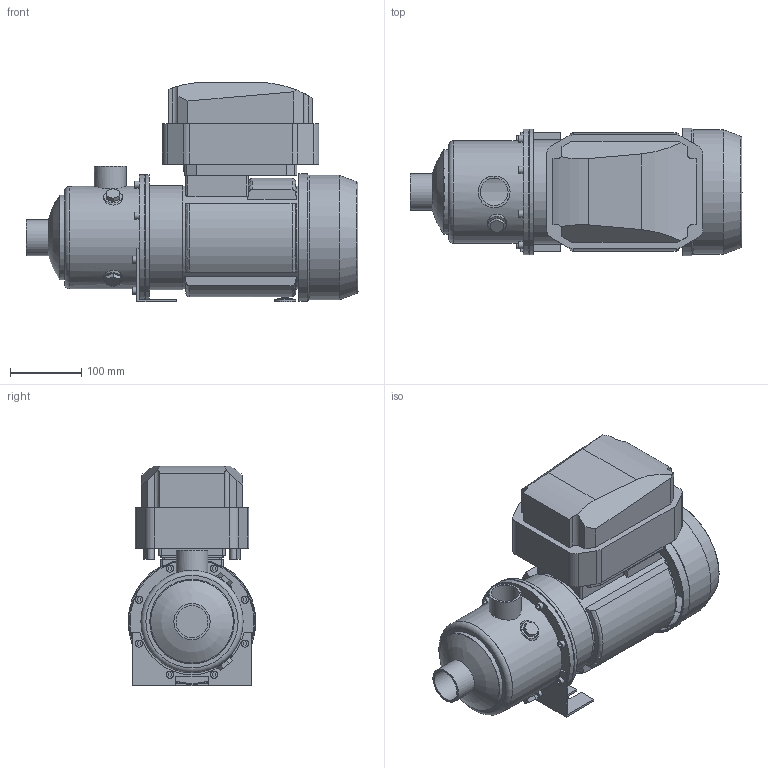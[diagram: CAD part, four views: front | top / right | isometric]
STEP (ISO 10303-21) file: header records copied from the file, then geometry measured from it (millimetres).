
FILE_DESCRIPTION(/* description */ ('Unknown'),/* implementation_level */ '2;1');
FILE_NAME(/* name */ 'MH 9 [3] T6 IE3 DTm',/* time_stamp */ '2026-07-10T15:16:49+02:00',/* author */ ('Unknown'),/* organization */ ('Unknown'),/* preprocessor_version */ 'ST-DEVELOPER v20',/* originating_system */ 'Solid Edge',/* authorisation */ 'Unknown');
FILE_SCHEMA (('AUTOMOTIVE_DESIGN {1 0 10303 214 3 1 1}'));
Length unit declared in the file: millimetre
Products named in the file (9): MH 9 [3] T6 IE3 DTm; Flangia motore Tonda M90; Corpo MH 9 [2-3]; Motore MEC 90 - T - VFD; carcassa MEC 90; Copriventola MEC 90; VFD sempl; Piedino MEC 90 int.90; Staffa 3-5-9 int.90
Assembly tree (8 placements, depth 3):
  MH 9 [3] T6 IE3 DTm
    Flangia motore Tonda M90
    Corpo MH 9 [2-3]
    Motore MEC 90 - T - VFD
      carcassa MEC 90
      Copriventola MEC 90
      VFD sempl
    Piedino MEC 90 int.90
    Staffa 3-5-9 int.90
Bounding box: 465.6 x 179.1 x 308 mm (x, y, z)
Volume: 6005803.1 mm3; surface area: 739384.9 mm2
Topology: 7 solids, 7 shells, 305 faces, 741 edges, 496 vertices
Faces by surface type: plane 197, cylinder 76, cone 19, torus 11, sphere 2
Full cylindrical faces by diameter (mm): 7 x4, 10 x9, 21 x1, 30 x1, 38.952 x1, 44.5 x1, 44.845 x1, 50.8 x1, 116.1 x1, 118.5 x1, 135 x1, 140 x3, 141.1 x1, 143.5 x1, 145 x1, 146 x1, 169.5 x1, 173.5 x1, 174.1 x2, 174.5 x1, 176.5 x2, 179.1 x1
Entity records: 9955 total; most frequent: CARTESIAN_POINT 1819, DIRECTION 1426, ORIENTED_EDGE 1328, EDGE_CURVE 664, AXIS2_PLACEMENT_3D 498, VERTEX_POINT 471, LINE 430, VECTOR 430
